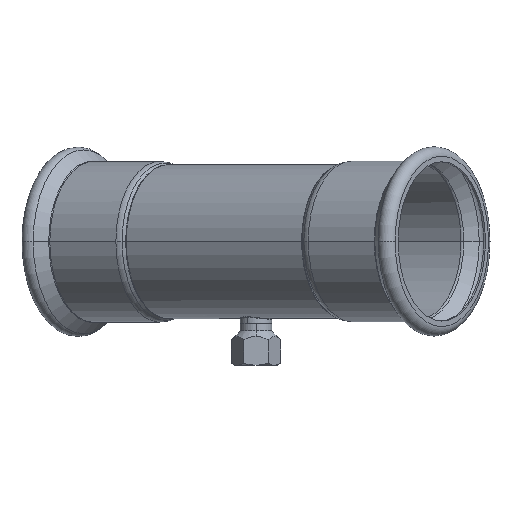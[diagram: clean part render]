
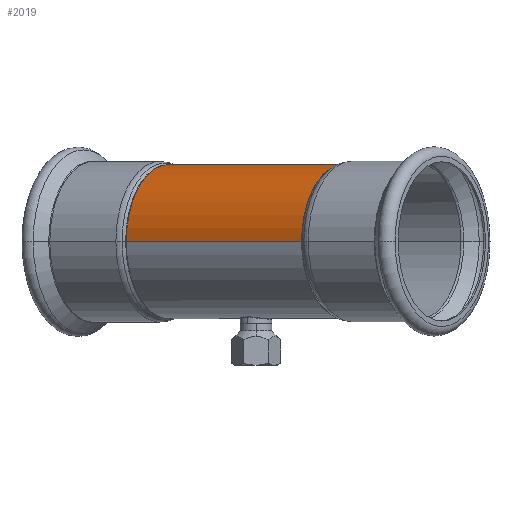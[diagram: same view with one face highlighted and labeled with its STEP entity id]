
A CAD part, top view. The second image highlights one B-rep face of the part: STEP entity #2019.
In plain terms, the highlighted cylindrical face has radius 53.5 mm (diameter 107 mm), a partial arc.
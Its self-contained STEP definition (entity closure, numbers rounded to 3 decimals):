
#172 = CYLINDRICAL_SURFACE ( 'NONE', #3817, 53.5 ) ;
#409 = CARTESIAN_POINT ( 'NONE',  ( -72.868, 0., 0. ) ) ;
#431 = EDGE_CURVE ( 'NONE', #2697, #3641, #2219, .T. ) ;
#645 = LINE ( 'NONE', #2752, #3821 ) ;
#761 = CARTESIAN_POINT ( 'NONE',  ( 72.868, 0., -53.5 ) ) ;
#790 = CARTESIAN_POINT ( 'NONE',  ( -72.868, 0., -53.5 ) ) ;
#1020 = DIRECTION ( 'NONE',  ( -1., 0., 0. ) ) ;
#1198 = ORIENTED_EDGE ( 'NONE', *, *, #2811, .F. ) ;
#1224 = CIRCLE ( 'NONE', #4040, 53.5 ) ;
#1299 = EDGE_LOOP ( 'NONE', ( #1198, #1937, #1314, #3256 ) ) ;
#1314 = ORIENTED_EDGE ( 'NONE', *, *, #1716, .T. ) ;
#1324 = FACE_OUTER_BOUND ( 'NONE', #1299, .T. ) ;
#1460 = CARTESIAN_POINT ( 'NONE',  ( 72.868, 0., 53.5 ) ) ;
#1609 = VECTOR ( 'NONE', #2341, 1000. ) ;
#1716 = EDGE_CURVE ( 'NONE', #3641, #2339, #645, .T. ) ;
#1937 = ORIENTED_EDGE ( 'NONE', *, *, #431, .T. ) ;
#1948 = EDGE_CURVE ( 'NONE', #2195, #2339, #1224, .T. ) ;
#2019 = ADVANCED_FACE ( 'NONE', ( #1324 ), #172, .T. ) ;
#2195 = VERTEX_POINT ( 'NONE', #790 ) ;
#2219 = CIRCLE ( 'NONE', #2673, 53.5 ) ;
#2339 = VERTEX_POINT ( 'NONE', #3192 ) ;
#2341 = DIRECTION ( 'NONE',  ( -1., 0., 0. ) ) ;
#2351 = DIRECTION ( 'NONE',  ( -1., 0., 0. ) ) ;
#2370 = DIRECTION ( 'NONE',  ( 0., 0., 1. ) ) ;
#2606 = CARTESIAN_POINT ( 'NONE',  ( 27.146, 0., 0. ) ) ;
#2673 = AXIS2_PLACEMENT_3D ( 'NONE', #3938, #2351, #2370 ) ;
#2697 = VERTEX_POINT ( 'NONE', #761 ) ;
#2752 = CARTESIAN_POINT ( 'NONE',  ( 27.146, 0., 53.5 ) ) ;
#2796 = DIRECTION ( 'NONE',  ( -1., 0., 0. ) ) ;
#2811 = EDGE_CURVE ( 'NONE', #2697, #2195, #3491, .T. ) ;
#2973 = DIRECTION ( 'NONE',  ( 0., 0., 1. ) ) ;
#3192 = CARTESIAN_POINT ( 'NONE',  ( -72.868, 0., 53.5 ) ) ;
#3249 = DIRECTION ( 'NONE',  ( -1., 0., 0. ) ) ;
#3256 = ORIENTED_EDGE ( 'NONE', *, *, #1948, .F. ) ;
#3491 = LINE ( 'NONE', #3875, #1609 ) ;
#3641 = VERTEX_POINT ( 'NONE', #1460 ) ;
#3817 = AXIS2_PLACEMENT_3D ( 'NONE', #2606, #3249, #2973 ) ;
#3821 = VECTOR ( 'NONE', #2796, 1000. ) ;
#3853 = DIRECTION ( 'NONE',  ( 0., 0., 1. ) ) ;
#3875 = CARTESIAN_POINT ( 'NONE',  ( 27.146, 0., -53.5 ) ) ;
#3938 = CARTESIAN_POINT ( 'NONE',  ( 72.868, 0., 0. ) ) ;
#4040 = AXIS2_PLACEMENT_3D ( 'NONE', #409, #1020, #3853 ) ;
